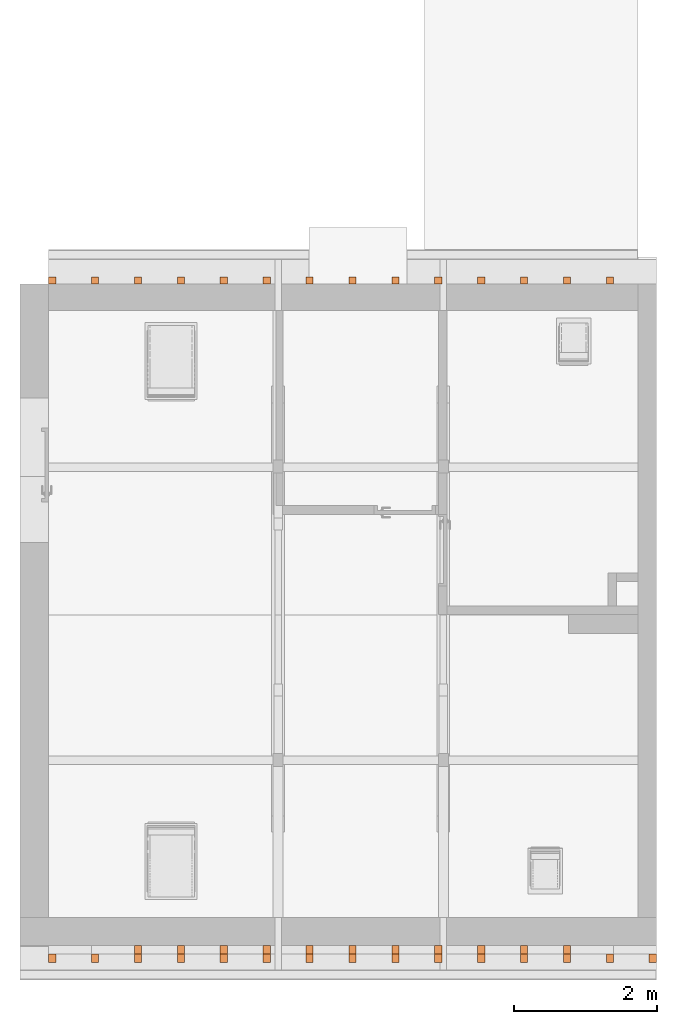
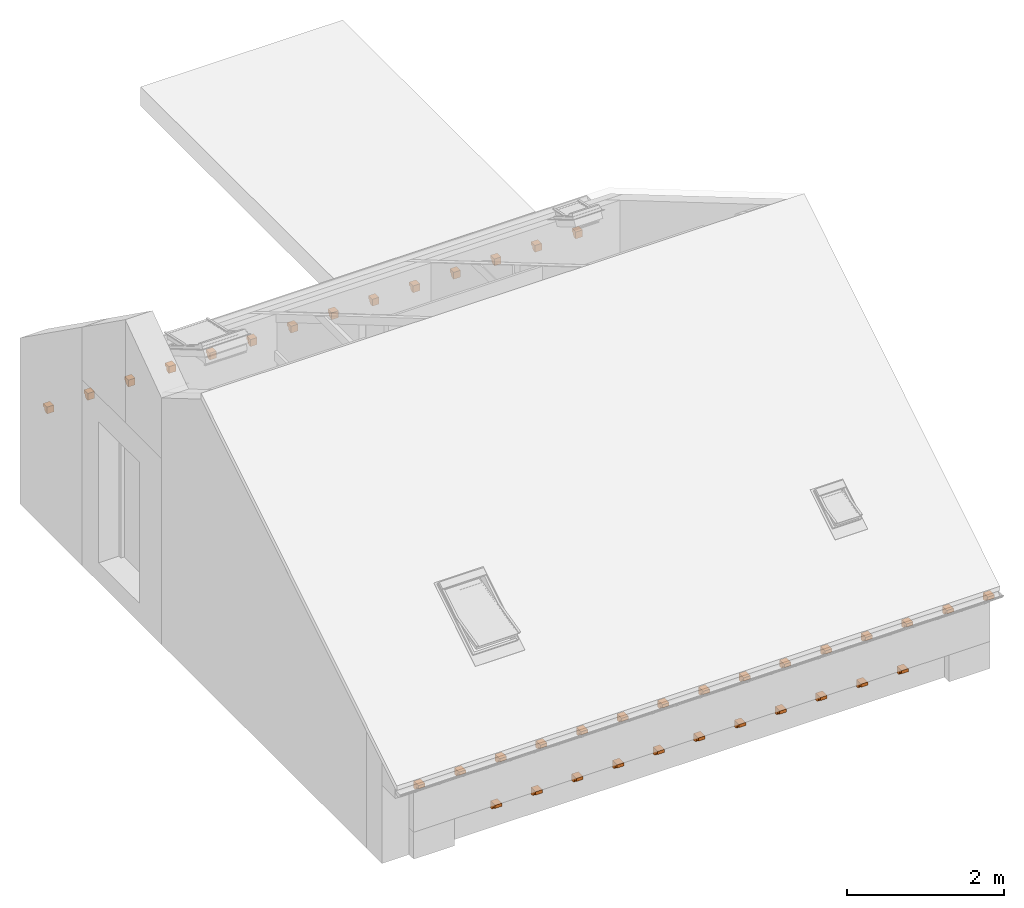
"""IFC4 building model written with IfcOpenShell, lengths in metres."""

from ifc_helpers import new_model, entity, si_unit, converted_unit, derived_unit, frame, origin, place, context, subcontext, project, spatial, faceted_brep, element, save


model = new_model("IFC4")

# Units and contexts
model_context = context("Model", 3, precision=1e-05, world=origin())
body_context = subcontext(model_context, "Body", "Model", "MODEL_VIEW")
ifc_project = project(units=[si_unit("LENGTHUNIT", "METRE"), si_unit("AREAUNIT", "SQUARE_METRE"), si_unit("VOLUMEUNIT", "CUBIC_METRE"), si_unit("MASSUNIT", "GRAM", prefix="KILO"), converted_unit("PLANEANGLEUNIT", "DEGREE", entity("IfcPlaneAngleMeasure", 0.0174532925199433), si_unit("PLANEANGLEUNIT", "RADIAN"), dimensions=[0, 0, 0, 0, 0, 0, 0]), derived_unit("THERMALTRANSMITTANCEUNIT", [(si_unit("POWERUNIT", "WATT"), 1), (si_unit("THERMODYNAMICTEMPERATUREUNIT", "KELVIN"), -1), (si_unit("LENGTHUNIT", "METRE"), -2)]), derived_unit("VOLUMETRICFLOWRATEUNIT", [(si_unit("LENGTHUNIT", "METRE"), 3), (converted_unit("TIMEUNIT", "hour", entity("IfcTimeMeasure", 3600.0), si_unit("TIMEUNIT", "SECOND"), dimensions=[0, 0, 1, 0, 0, 0, 0]), -1), (si_unit("LENGTHUNIT", "METRE"), -1)])], contexts=[model_context])

# Building, storeys
building_placement = place(None, origin())
building = spatial("IfcBuilding", under=ifc_project, at=building_placement, Name="Bestandsgebäude A - Sporthalle / Wohnhaus (TB 100-499)   ANPASSEN !!!", CompositionType="ELEMENT")
storey_1_placement = place(building_placement, frame((0.0, 0.0, 7.71)))
storey_1 = spatial("IfcBuildingStorey", under=building, at=storey_1_placement, Name="Geb. A Dachgeschoss (TB 450-499)", CompositionType="ELEMENT", Elevation=7.71)
storey_2_placement = place(storey_1_placement, frame((0.0, 0.0, 7.71)))
storey_2 = spatial("IfcBuildingStorey", under=storey_1, at=storey_2_placement, Name="Architektur (TB 450-459)", CompositionType="PARTIAL")

# Proxies
for number, where in (
    (1, (-0.1, -0.240000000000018, -6.99676065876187)),
    (2, (-0.7, -0.240000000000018, -6.99676065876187)),
    (3, (-1.3, -0.240000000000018, -6.99676065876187)),
    (4, (-1.9, -0.240000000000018, -6.99676065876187)),
    (5, (-2.5, -0.240000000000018, -6.99676065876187)),
    (6, (-3.1, -0.240000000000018, -6.99676065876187)),
    (7, (-3.7, -0.240000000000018, -6.99676065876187)),
    (8, (-4.3, -0.240000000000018, -6.99676065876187)),
    (9, (-4.9, -0.240000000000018, -6.99676065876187)),
    (10, (-5.5, -0.240000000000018, -6.99676065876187)),
    (11, (-6.1, -0.240000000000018, -6.99676065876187)),
    (12, (-6.7, -0.240000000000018, -6.99676065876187)),
    (13, (-7.3, -0.240000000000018, -6.99676065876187)),
    (14, (-7.9, -0.240000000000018, -6.99676065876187)),
    (15, (-8.5, -0.240000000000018, -6.99676065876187)),
):
    element("IfcBuildingElementProxy", number, at=place(storey_2_placement, frame(where)), inside=storey_2, context=body_context, shape_type="Brep", body=[
        faceted_brep([(0.1, 0.12, 0.106760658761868), (0.0, 0.12, 0.106760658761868), (0.0, 0.119999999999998, 0.0), (0.1, 0.119999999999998, 0.0), (0.0, 0.0978057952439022, 0.0), (0.1, 0.0978057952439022, 0.0), (0.0, 0.089673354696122, 0.00115963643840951), (0.1, 0.089673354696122, 0.00115963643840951), (0.0, 0.0775008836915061, 0.00476296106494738), (0.1, 0.0775008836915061, 0.00476296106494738), (0.0, 0.0683377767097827, 0.00852666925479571), (0.1, 0.0683377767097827, 0.00852666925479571), (0.0, 0.0611802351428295, 0.0140969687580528), (0.1, 0.0611802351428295, 0.0140969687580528), (0.0, 0.0508945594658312, 0.029525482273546), (0.1, 0.0508945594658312, 0.029525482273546), (0.0, 0.05, 0.0333518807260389), (0.1, 0.05, 0.0333518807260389), (0.0, 0.05, 0.0567606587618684), (0.1, 0.05, 0.0567606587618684), (0.0, 0.0, 0.0567606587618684), (0.1, 0.0, 0.0567606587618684), (0.0, 0.0, 0.106760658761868), (0.1, 0.0, 0.106760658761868)], [[[0, 1, 2, 3]], [[3, 2, 4, 5]], [[5, 4, 6, 7]], [[7, 6, 8, 9]], [[9, 8, 10, 11]], [[11, 10, 12, 13]], [[13, 12, 14, 15]], [[15, 14, 16, 17]], [[17, 16, 18, 19]], [[19, 18, 20, 21]], [[21, 20, 22, 23]], [[23, 22, 1, 0]], [[0, 3, 5, 7, 9, 11, 13, 15, 17, 19, 21, 23]], [[1, 22, 20, 18, 16, 14, 12, 10, 8, 6, 4, 2]]], orient=[[False], [False], [False], [False], [False], [False], [False], [False], [False], [False], [False], [False], [False], [False]]),
    ])
for number, where in (
    (16, (-0.7, 9.25, -6.84676065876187)),
    (17, (-1.3, 9.25, -6.84676065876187)),
    (18, (-1.9, 9.25, -6.84676065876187)),
    (19, (-2.5, 9.25, -6.84676065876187)),
    (20, (-3.1, 9.25, -6.84676065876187)),
    (21, (-3.7, 9.25, -6.84676065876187)),
    (22, (-4.3, 9.25, -6.84676065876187)),
    (23, (-4.9, 9.25, -6.84676065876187)),
    (24, (-5.5, 9.25, -6.84676065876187)),
    (25, (-6.1, 9.25, -6.84676065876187)),
    (26, (-6.7, 9.25, -6.84676065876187)),
    (27, (-7.3, 9.25, -6.84676065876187)),
    (28, (-7.9, 9.25, -6.84676065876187)),
    (29, (-8.5, 9.25, -6.84676065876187)),
):
    element("IfcBuildingElementProxy", number, at=place(storey_2_placement, frame(where)), inside=storey_2, context=body_context, shape_type="Brep", body=[
        faceted_brep([(0.1, 0.0, 0.10676065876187), (0.1, 0.0, 0.0), (0.0, 0.0, 0.0), (0.0, 0.0, 0.10676065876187), (0.1, 0.0221942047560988, 0.0), (0.0, 0.0221942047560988, 0.0), (0.1, 0.0303266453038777, 0.00115963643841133), (0.0, 0.0303266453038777, 0.00115963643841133), (0.1, 0.0424991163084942, 0.00476296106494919), (0.0, 0.0424991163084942, 0.00476296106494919), (0.1, 0.0516622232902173, 0.00852666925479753), (0.0, 0.0516622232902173, 0.00852666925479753), (0.1, 0.0588197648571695, 0.0140969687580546), (0.0, 0.0588197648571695, 0.0140969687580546), (0.1, 0.0691054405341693, 0.0295254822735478), (0.0, 0.0691054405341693, 0.0295254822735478), (0.1, 0.07, 0.0333518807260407), (0.0, 0.07, 0.0333518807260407), (0.1, 0.07, 0.0567606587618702), (0.0, 0.07, 0.0567606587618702), (0.1, 0.1, 0.0567606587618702), (0.0, 0.1, 0.0567606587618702), (0.1, 0.1, 0.10676065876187), (0.0, 0.1, 0.10676065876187)], [[[0, 1, 2, 3]], [[1, 4, 5, 2]], [[4, 6, 7, 5]], [[6, 8, 9, 7]], [[8, 10, 11, 9]], [[10, 12, 13, 11]], [[12, 14, 15, 13]], [[14, 16, 17, 15]], [[16, 18, 19, 17]], [[18, 20, 21, 19]], [[20, 22, 23, 21]], [[22, 0, 3, 23]], [[0, 22, 20, 18, 16, 14, 12, 10, 8, 6, 4, 1]], [[3, 2, 5, 7, 9, 11, 13, 15, 17, 19, 21, 23]]], orient=[[False], [False], [False], [False], [False], [False], [False], [False], [False], [False], [False], [False], [False], [False]]),
    ])
for number, where in (
    (30, (-1.3, -0.120000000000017, -7.79676065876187)),
    (31, (-1.9, -0.120000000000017, -7.79676065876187)),
    (32, (-2.5, -0.120000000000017, -7.79676065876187)),
    (33, (-3.1, -0.120000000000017, -7.79676065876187)),
    (34, (-3.7, -0.120000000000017, -7.79676065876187)),
    (35, (-4.3, -0.120000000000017, -7.79676065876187)),
    (36, (-4.9, -0.120000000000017, -7.79676065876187)),
    (37, (-5.5, -0.120000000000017, -7.79676065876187)),
    (38, (-6.1, -0.120000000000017, -7.79676065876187)),
    (39, (-6.7, -0.120000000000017, -7.79676065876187)),
    (40, (-7.3, -0.120000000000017, -7.79676065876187)),
):
    element("IfcBuildingElementProxy", number, at=place(storey_2_placement, frame(where)), inside=storey_2, context=body_context, shape_type="Brep", body=[
        faceted_brep([(0.1, 0.12, 0.10676065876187), (0.0, 0.12, 0.10676065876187), (0.0, 0.119999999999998, 0.0), (0.1, 0.119999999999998, 0.0), (0.0, 0.0978057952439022, 0.0), (0.1, 0.0978057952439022, 0.0), (0.0, 0.089673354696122, 0.00115963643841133), (0.1, 0.089673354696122, 0.00115963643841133), (0.0, 0.0775008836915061, 0.00476296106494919), (0.1, 0.0775008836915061, 0.00476296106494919), (0.0, 0.0683377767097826, 0.00852666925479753), (0.1, 0.0683377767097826, 0.00852666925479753), (0.0, 0.0611802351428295, 0.0140969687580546), (0.1, 0.0611802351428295, 0.0140969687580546), (0.0, 0.0508945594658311, 0.0295254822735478), (0.1, 0.0508945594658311, 0.0295254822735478), (0.0, 0.05, 0.0333518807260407), (0.1, 0.05, 0.0333518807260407), (0.0, 0.05, 0.0567606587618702), (0.1, 0.05, 0.0567606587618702), (0.0, 0.0, 0.0567606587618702), (0.1, 0.0, 0.0567606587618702), (0.0, 0.0, 0.10676065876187), (0.1, 0.0, 0.10676065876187)], [[[0, 1, 2, 3]], [[3, 2, 4, 5]], [[5, 4, 6, 7]], [[7, 6, 8, 9]], [[9, 8, 10, 11]], [[11, 10, 12, 13]], [[13, 12, 14, 15]], [[15, 14, 16, 17]], [[17, 16, 18, 19]], [[19, 18, 20, 21]], [[21, 20, 22, 23]], [[23, 22, 1, 0]], [[0, 3, 5, 7, 9, 11, 13, 15, 17, 19, 21, 23]], [[1, 22, 20, 18, 16, 14, 12, 10, 8, 6, 4, 2]]], orient=[[False], [False], [False], [False], [False], [False], [False], [False], [False], [False], [False], [False], [False], [False]]),
    ])

save(model, "model.ifc")
